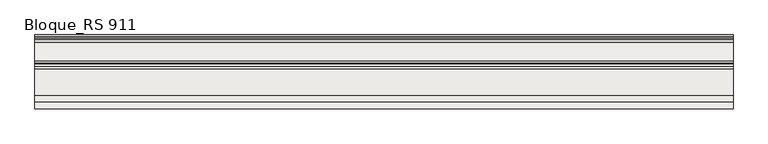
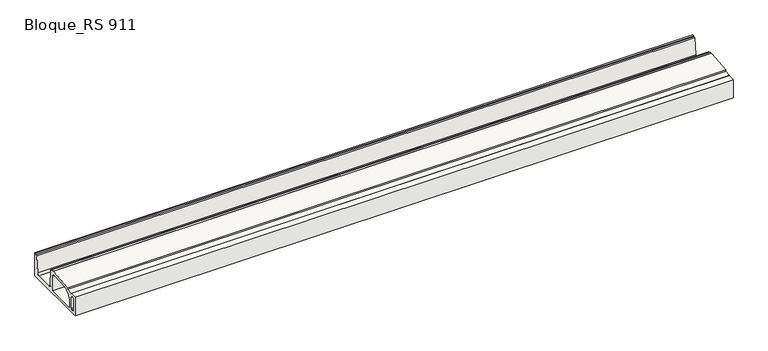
"""IFC4 building model written with IfcOpenShell, lengths in millimetres: slab geometry, ROSA GRES_RS 911 : Bloque_RS 911."""

import ifcopenshell
import ifcopenshell.guid

model = None  # the IFC model being written
_history = None  # IfcOwnerHistory: only IFC2X3 demands one
_inside = {}  # id of a spatial element -> (the spatial element, [elements in it])
_under = {}  # id of a project, library or spatial element -> (it, [spatial elements below it])
_declared = {}  # id of a project -> (the project, [libraries it declares])
_typed = {}  # id of a type object -> (the type object, [elements of that type])
_made_of = {}  # id of a material, layer set ... -> (it, [elements and type objects made of it])


def new_model(schema):
    """Start an empty IFC model of exactly this schema.

    Asked for "IFC4X3", IfcOpenShell would pick the latest addendum, in which some entities
    have other attributes; the version numbers below select the first issue.
    IFC2X3 requires an IfcOwnerHistory on every rooted entity: one is made here for all.
    """
    global model, _history
    if schema == "IFC4X3":
        model = ifcopenshell.file(schema_version=(4, 3, 0, 0))
    else:
        model = ifcopenshell.file(schema=schema)
    _inside.clear()
    _under.clear()
    _declared.clear()
    _typed.clear()
    _made_of.clear()
    _history = None
    if model.schema == "IFC2X3":
        org = make("IfcOrganization", Name="unknown")
        user = make(
            "IfcPersonAndOrganization",
            ThePerson=make("IfcPerson", FamilyName="unknown"),
            TheOrganization=org,
        )
        app = make(
            "IfcApplication",
            ApplicationDeveloper=org,
            Version="unknown",
            ApplicationFullName="unknown",
            ApplicationIdentifier="unknown",
        )
        _history = make(
            "IfcOwnerHistory",
            OwningUser=user,
            OwningApplication=app,
            ChangeAction="ADDED",
            CreationDate=0,
        )
    return model


def make(cls, **values):
    """One entity of the class cls with the attributes given. An attribute that is None is left unset."""
    return model.create_entity(
        cls, **{name: value for name, value in values.items() if value is not None}
    )


def rooted(cls, **values):
    """An entity with a GlobalId (a new one), such as an element, a storey or a relation."""
    return make(cls, GlobalId=ifcopenshell.guid.new(), OwnerHistory=_history, **values)


def si_unit(unit_type, name, prefix=None):
    """IfcSIUnit, for example si_unit("LENGTHUNIT", "METRE", prefix="MILLI")."""
    return make("IfcSIUnit", UnitType=unit_type, Prefix=prefix, Name=name)


def assignment(units):
    """IfcUnitAssignment: the units of a project."""
    return None if units is None else make("IfcUnitAssignment", Units=units)


def point(xyz):
    """IfcCartesianPoint."""
    return None if xyz is None else make("IfcCartesianPoint", Coordinates=xyz)


def direction(xyz):
    """IfcDirection."""
    return None if xyz is None else make("IfcDirection", DirectionRatios=xyz)


def frame(location, z_axis=None, x_axis=None):
    """IfcAxis2Placement3D, a coordinate frame: its origin and axes. An axis left out is left unset."""
    return make(
        "IfcAxis2Placement3D",
        Location=point(location),
        Axis=direction(z_axis),
        RefDirection=direction(x_axis),
    )


def frame_2d(location, x_axis=None):
    """IfcAxis2Placement2D, a coordinate frame in the plane: its origin and x axis."""
    return make(
        "IfcAxis2Placement2D", Location=point(location), RefDirection=direction(x_axis)
    )


def origin():
    """The frame at (0, 0, 0) with its axes left unset."""
    return frame((0.0, 0.0, 0.0))


def place(relative_to, where):
    """IfcLocalPlacement: puts the frame where relative to a parent placement (None: the world)."""
    return make(
        "IfcLocalPlacement", PlacementRelTo=relative_to, RelativePlacement=where
    )


def context(
    kind, dimensions, precision=None, world=None, true_north=None, identifier=None
):
    """IfcGeometricRepresentationContext, for example the 3D "Model" context."""
    return make(
        "IfcGeometricRepresentationContext",
        ContextIdentifier=identifier,
        ContextType=kind,
        CoordinateSpaceDimension=dimensions,
        Precision=precision,
        WorldCoordinateSystem=world,
        TrueNorth=true_north,
    )


def project(units=None, contexts=None):
    """IfcProject with its units and contexts."""
    return rooted(
        "IfcProject",
        Name="project",
        RepresentationContexts=contexts,
        UnitsInContext=assignment(units),
    )


def spatial(cls, under=None, at=None, **own):
    """A site, building, storey or space (cls), placed at a placement, below another one or the project."""
    s = rooted(cls, ObjectPlacement=at, **own)
    if under is not None:
        _under.setdefault(under.id(), (under, []))[1].append(s)
    return s


def polyline(points):
    """IfcPolyline through the points."""
    return make("IfcPolyline", Points=[point(p) for p in points])


def circle_curve(where, radius):
    """IfcCircle in the frame where."""
    return make("IfcCircle", Position=where, Radius=radius)


def trimmed(basis, trim1, trim2, sense, master):
    """IfcTrimmedCurve: the piece of a basis curve between two trims."""
    return make(
        "IfcTrimmedCurve",
        BasisCurve=basis,
        Trim1=trim1,
        Trim2=trim2,
        SenseAgreement=sense,
        MasterRepresentation=master,
    )


def segment(curve, same_sense, transition):
    """IfcCompositeCurveSegment."""
    return make(
        "IfcCompositeCurveSegment",
        Transition=transition,
        SameSense=same_sense,
        ParentCurve=curve,
    )


def composite_curve(segments, self_intersect=None):
    """IfcCompositeCurve: segments joined end to end."""
    return make("IfcCompositeCurve", Segments=segments, SelfIntersect=self_intersect)


def outline(outer, holes=None, kind="AREA"):
    """IfcArbitraryClosedProfileDef: a profile drawn as a closed curve; with holes, ...WithVoids."""
    if holes is None:
        return make("IfcArbitraryClosedProfileDef", ProfileType=kind, OuterCurve=outer)
    return make(
        "IfcArbitraryProfileDefWithVoids",
        ProfileType=kind,
        OuterCurve=outer,
        InnerCurves=holes,
    )


def extrude(swept, where, along, depth):
    """IfcExtrudedAreaSolid: the profile swept, set in the frame where, extruded along a direction by depth."""
    return make(
        "IfcExtrudedAreaSolid",
        SweptArea=swept,
        Position=where,
        ExtrudedDirection=direction(along),
        Depth=depth,
    )


def shape(context_of_items, identifier, shape_type, items):
    """IfcShapeRepresentation: the items that make up one representation, for example the "Body"."""
    return make(
        "IfcShapeRepresentation",
        ContextOfItems=context_of_items,
        RepresentationIdentifier=identifier,
        RepresentationType=shape_type,
        Items=items,
    )


def source(mapping_origin, context_of_items, identifier, shape_type, items):
    """IfcRepresentationMap: a shape defined once, which mapped items show again and again."""
    return make(
        "IfcRepresentationMap",
        MappingOrigin=mapping_origin,
        MappedRepresentation=shape(context_of_items, identifier, shape_type, items),
    )


def transform(
    local_origin,
    x_axis=None,
    y_axis=None,
    z_axis=None,
    scale=None,
    scale2=None,
    scale3=None,
    uniform=True,
):
    """IfcCartesianTransformationOperator3D, or its non-uniform kind. x_axis, y_axis, z_axis: its Axis1, 2, 3."""
    if uniform:
        return make(
            "IfcCartesianTransformationOperator3D",
            Axis1=direction(x_axis),
            Axis2=direction(y_axis),
            LocalOrigin=point(local_origin),
            Scale=scale,
            Axis3=direction(z_axis),
        )
    return make(
        "IfcCartesianTransformationOperator3DnonUniform",
        Axis1=direction(x_axis),
        Axis2=direction(y_axis),
        LocalOrigin=point(local_origin),
        Scale=scale,
        Axis3=direction(z_axis),
        Scale2=scale2,
        Scale3=scale3,
    )


def mapped(mapping_source, mapping_target):
    """IfcMappedItem: shows the shape of a source again, moved by a transform."""
    return make(
        "IfcMappedItem", MappingSource=mapping_source, MappingTarget=mapping_target
    )


def made_of(thing, what):
    """Note that an element or type object is made of a material, layer set ...; save() writes the relation."""
    if what is not None:
        _made_of.setdefault(what.id(), (what, []))[1].append(thing)
    return thing


def element(
    cls,
    number,
    at=None,
    inside=None,
    cuts=None,
    type_object=None,
    material=None,
    context=None,
    identifier="Body",
    shape_type=None,
    held_by="IfcProductDefinitionShape",
    body=None,
    shapes=None,
    **own,
):
    """One element of the class cls, such as IfcWall. Its Tag is "e" and its number.

    at: its placement. inside: the storey or other place that contains it. cuts: it is an
    opening in that element (IfcRelVoidsElement). A single representation is given by context,
    identifier, shape_type and body (its items); several are given by shapes. held_by: the class
    of the entity that holds the representations. save() writes the other relations.
    """
    e = rooted(cls, Tag="e%d" % number, ObjectPlacement=at, **own)
    if body is not None:
        shapes = [shape(context, identifier, shape_type, body)]
    if shapes is not None:
        e.Representation = make(held_by, Representations=shapes)
    if inside is not None:
        _inside.setdefault(inside.id(), (inside, []))[1].append(e)
    if cuts is not None:
        rooted(
            "IfcRelVoidsElement", RelatingBuildingElement=cuts, RelatedOpeningElement=e
        )
    if type_object is not None:
        _typed.setdefault(type_object.id(), (type_object, []))[1].append(e)
    return made_of(e, material)


def aggregate(whole, parts):
    """IfcRelAggregates: a whole, such as a stair, and the parts it consists of."""
    return rooted("IfcRelAggregates", RelatingObject=whole, RelatedObjects=parts)


def save(model, path):
    """Write the relations noted so far, then the file.

    IfcRelAggregates (storeys below a building ...), IfcRelContainedInSpatialStructure (elements
    in a storey), IfcRelDefinesByType, IfcRelAssociatesMaterial and IfcRelDeclares: one each for
    every whole, place, type object, material and project.
    """
    for whole, parts in _under.values():
        aggregate(whole, parts)
    for where, things in _inside.values():
        rooted(
            "IfcRelContainedInSpatialStructure",
            RelatedElements=things,
            RelatingStructure=where,
        )
    for kind, things in _typed.values():
        rooted("IfcRelDefinesByType", RelatedObjects=things, RelatingType=kind)
    for what, things in _made_of.values():
        rooted("IfcRelAssociatesMaterial", RelatedObjects=things, RelatingMaterial=what)
    for by, libraries in _declared.values():
        rooted("IfcRelDeclares", RelatingContext=by, RelatedDefinitions=libraries)
    model.write(path)


def bloque_rs_911_18bb1b11(model_context):
    return source(origin(), model_context, "Body", "SweptSolid", [
        extrude(outline(composite_curve([segment(polyline([(12.836227, 1.7539108), (12.836227, 171.9333029), (67.836227, 176.4100471), (67.836227, 173.8170239), (72.836227, 173.8170239), (72.836227, 176.8170239), (125.1172881, 181.0724591), (123.836227, 196.8112099), (343.836227, 214.7181867), (343.836227, 216.3460936), (363.836227, 216.3460936), (363.836227, 206.3460936), (381.836227, 206.3460936), (393.5484732, 55.2086635)]), True, "CONTINUOUS"), segment(trimmed(circle_curve(frame_2d((413.4886891, 56.7539108)), 20.0), [point((393.5484732, 55.2086635))], [point((413.4886891, 36.7539108))], True, "CARTESIAN"), True, "CONTINUOUS"), segment(polyline([(413.4886891, 36.7539108), (567.1837649, 36.7539108)]), True, "CONTINUOUS"), segment(trimmed(circle_curve(frame_2d((567.1837649, 56.7539108)), 20.0), [point((567.1837649, 36.7539108))], [point((587.1239808, 55.2086635))], True, "CARTESIAN"), True, "CONTINUOUS"), segment(polyline([(587.1239808, 55.2086635), (598.836227, 206.3460936), (616.836227, 206.3460936), (616.836227, 216.3460936), (626.836227, 216.3460936), (626.836227, 1.7539108), (12.836227, 1.7539108)]), True, "CONTINUOUS")], self_intersect=False), holes=[composite_curve([segment(trimmed(circle_curve(frame_2d((59.836227, 140.6431347)), 8.0), [point((67.836227, 140.6431347))], [point((59.1872106, 148.6167648))], True, "CARTESIAN"), True, "CONTINUOUS"), segment(polyline([(59.1872106, 148.6167648), (47.1872106, 147.6400206)]), True, "CONTINUOUS"), segment(trimmed(circle_curve(frame_2d((47.836227, 139.6663905)), 8.0), [point((47.1872106, 147.6400206))], [point((39.836227, 139.6663905))], True, "CARTESIAN"), True, "CONTINUOUS"), segment(polyline([(39.836227, 139.6663905), (39.836227, 36.7539108)]), True, "CONTINUOUS"), segment(trimmed(circle_curve(frame_2d((47.836227, 36.7539108)), 8.0), [point((39.836227, 36.7539108))], [point((47.836227, 28.7539108))], True, "CARTESIAN"), True, "CONTINUOUS"), segment(polyline([(47.836227, 28.7539108), (59.836227, 28.7539108)]), True, "CONTINUOUS"), segment(trimmed(circle_curve(frame_2d((59.836227, 36.7539108)), 8.0), [point((59.836227, 28.7539108))], [point((67.836227, 36.7539108))], True, "CARTESIAN"), True, "CONTINUOUS"), segment(polyline([(67.836227, 36.7539108), (67.836227, 140.6431347)]), True, "CONTINUOUS")], self_intersect=False), composite_curve([segment(trimmed(circle_curve(frame_2d((187.3063127, 84.534333)), 85.0), [point((180.4105134, 169.2541533))], [point((102.3063127, 84.534333))], True, "CARTESIAN"), True, "CONTINUOUS"), segment(polyline([(102.3063127, 84.534333), (102.3063127, 28.7539108), (356.3063127, 28.7539108), (356.3063127, 161.8772036)]), True, "CONTINUOUS"), segment(trimmed(circle_curve(frame_2d((336.3063127, 161.8772036)), 20.0), [point((356.3063127, 161.8772036))], [point((334.6837717, 181.811279))], True, "CARTESIAN"), True, "CONTINUOUS"), segment(polyline([(334.6837717, 181.811279), (180.4105134, 169.2541533)]), True, "CONTINUOUS")], self_intersect=False)]), frame((0.0, 0.0, 0.0), z_axis=(1.0, 0.0, 0.0), x_axis=(0.0, 1.0, 0.0)), (0.0, 0.0, 1.0), 5804.1673721),
    ])


if __name__ == "__main__":
    model = new_model("IFC4")
    model_context = context("Model", 3, world=origin())
    ifc_project = project(units=[si_unit("LENGTHUNIT", "METRE", prefix="MILLI")], contexts=[model_context])
    site = spatial("IfcSite", under=ifc_project)
    building = spatial("IfcBuilding", under=site)
    placement = place(None, origin())
    bloque_rs_911_shape = bloque_rs_911_18bb1b11(model_context)
    element("IfcSlab", 1, ObjectType="ROSA GRES_RS 911 : Bloque_RS 911", at=placement, inside=building, context=model_context, shape_type="MappedRepresentation", body=[
        mapped(bloque_rs_911_shape, transform((0.0, 0.0, 0.0), x_axis=(1.0, 0.0, 0.0), y_axis=(0.0, 1.0, 0.0), z_axis=(0.0, 0.0, 1.0))),
    ])
    save(model, "model.ifc")
